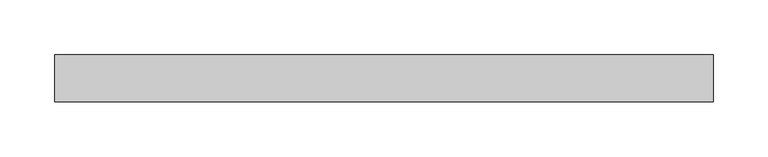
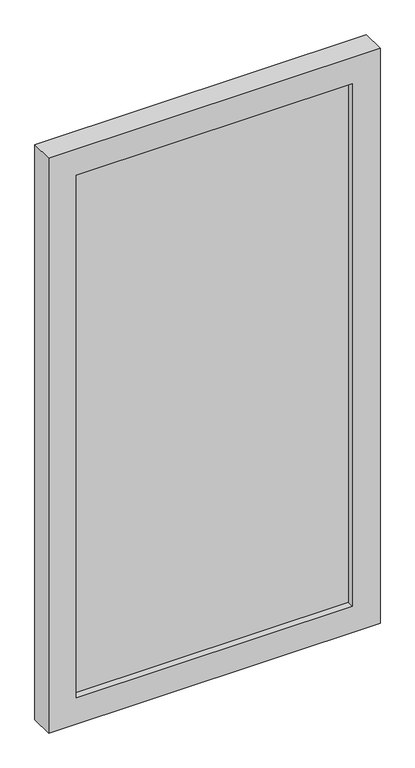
"""IFC4 building model written with IfcOpenShell, lengths in millimetres: furniture geometry, Espelho cristal com moldura de alumínio natural : Espelho c/ Moldura  Alumínio Cristal s/ Bisote - 60x110."""

from ifc_helpers import new_model, si_unit, frame, origin, place, context, project, spatial, polyline, outline, extrude, source, transform, mapped, element, save


def furniture_c6021220(model_context):
    return source(origin(), model_context, "Body", "SweptSolid", [
        extrude(outline(polyline([(250.0, -30.0), (-250.0, -30.0), (-250.0, 0.0), (250.0, 0.0), (250.0, -30.0)])), frame((0.0, 0.0, 50.0), z_axis=(0.0, 0.0, 1.0), x_axis=(1.0, 0.0, 0.0)), (0.0, 0.0, 1.0), 1000.0),
        extrude(outline(polyline([(1100.0, 300.0), (1100.0, -300.0), (0.0, -300.0), (0.0, 300.0), (1100.0, 300.0)]), holes=[polyline([(1050.0, 250.0), (50.0, 250.0), (50.0, -250.0), (1050.0, -250.0), (1050.0, 250.0)])]), frame((0.0, -42.6985074, 0.0), z_axis=(0.0, 1.0, 0.0), x_axis=(0.0, 0.0, 1.0)), (0.0, 0.0, 1.0), 42.6985074),
    ])


if __name__ == "__main__":
    model = new_model("IFC4")
    model_context = context("Model", 3, world=origin())
    ifc_project = project(units=[si_unit("LENGTHUNIT", "METRE", prefix="MILLI")], contexts=[model_context])
    site = spatial("IfcSite", under=ifc_project)
    building = spatial("IfcBuilding", under=site)
    placement = place(None, origin())
    furniture_shape = furniture_c6021220(model_context)
    element("IfcFurniture", 1, ObjectType="Espelho cristal com moldura de alumínio natural : Espelho c/ Moldura  Alumínio Cristal s/ Bisote - 60x110", at=placement, inside=building, context=model_context, shape_type="MappedRepresentation", body=[
        mapped(furniture_shape, transform((0.0, 0.0, 0.0), x_axis=(1.0, 0.0, 0.0), y_axis=(0.0, 1.0, 0.0), z_axis=(0.0, 0.0, 1.0))),
    ])
    save(model, "model.ifc")
